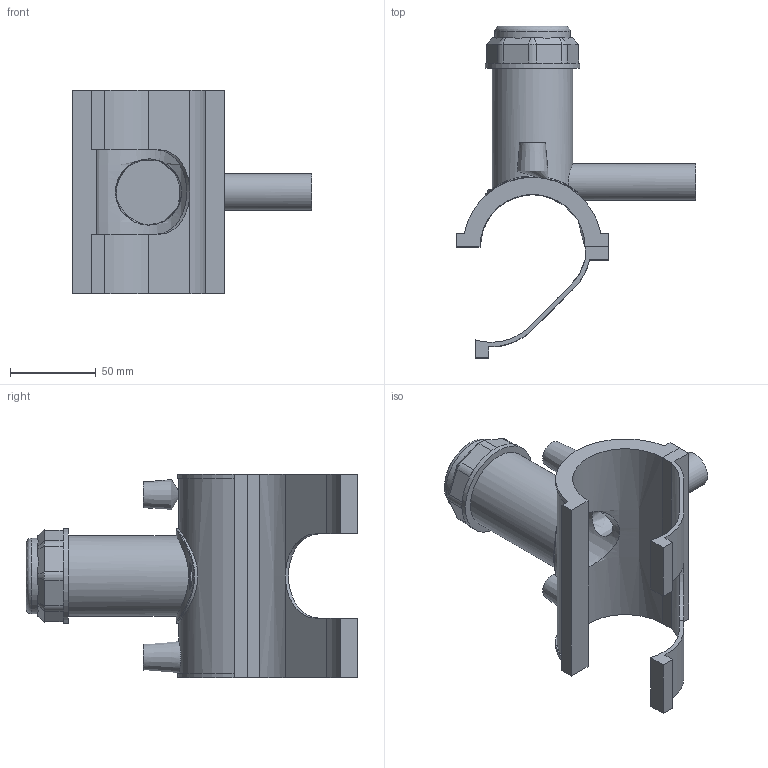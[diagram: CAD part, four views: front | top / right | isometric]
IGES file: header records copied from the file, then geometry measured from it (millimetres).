
Global section: file name: 5963BB03020005.ipt; native system: Autodesk Inventor 2019; preprocessor: unknown; author: KIM; date: 20210830.101338; units: millimetre
Bounding box: 139.45 x 192.97 x 118.11 mm (x, y, z)
Volume: 252466.2 mm3; surface area: 90370.3 mm2
Topology: 3 solids, 3 shells, 109 faces, 269 edges, 176 vertices
Faces by surface type: plane 64, cylinder 23, cone 11, revolution 10, bspline 1
Full cylindrical faces by diameter (mm): 4 x2, 21.2 x1, 43.992 x1, 46.742 x1, 54.99 x1
